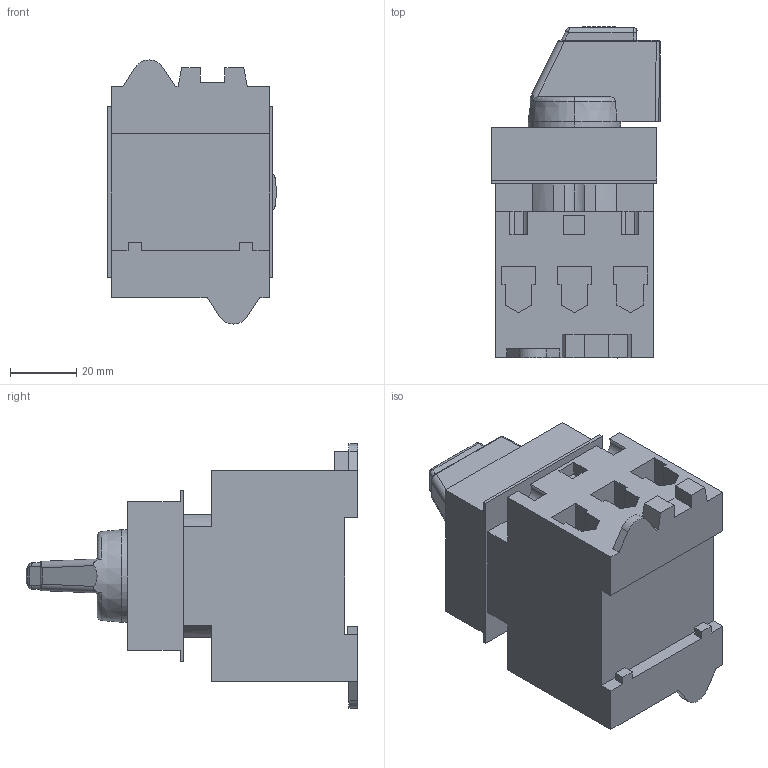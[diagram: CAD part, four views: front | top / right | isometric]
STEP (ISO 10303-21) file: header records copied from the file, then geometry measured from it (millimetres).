
FILE_DESCRIPTION (( 'STEP AP203' ), '1' );
FILE_NAME ('LTS63_80 SMAH1 A3.STEP', '2014-05-12T06:11:49', ( '' ), ( '' ), 'SwSTEP 2.0', 'SolidWorks 2014', '' );
FILE_SCHEMA (( 'CONFIG_CONTROL_DESIGN' ));
Length unit declared in the file: millimetre
Products named in the file (3): LTS63 VZV A3_Schaltkörper; SV1_48x48_smah1; LTS63_80 SMAH1 A3
Assembly tree (2 placements, depth 2):
  LTS63_80 SMAH1 A3
    LTS63 VZV A3_Schaltkörper
    SV1_48x48_smah1
Bounding box: 50.97 x 100.5 x 80 mm (x, y, z)
Volume: 183114.1 mm3; surface area: 36939.6 mm2
Topology: 2 solids, 2 shells, 327 faces, 850 edges, 553 vertices
Faces by surface type: plane 214, cylinder 55, bspline 38, cone 15, torus 5
Entity records: 12429 total; most frequent: CARTESIAN_POINT 4310, ORIENTED_EDGE 1696, DIRECTION 1477, EDGE_CURVE 848, VECTOR 613, LINE 613, VERTEX_POINT 553, AXIS2_PLACEMENT_3D 432
